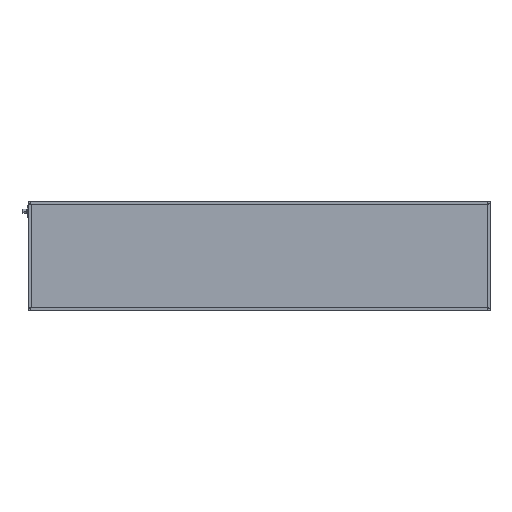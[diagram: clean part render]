
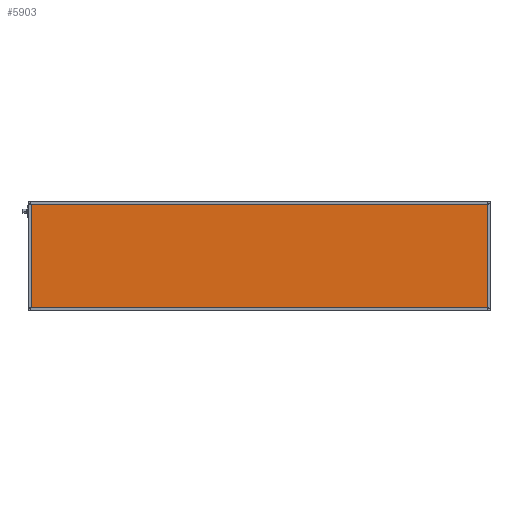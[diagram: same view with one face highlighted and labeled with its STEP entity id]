
A CAD part, top view. The second image highlights one B-rep face of the part: STEP entity #5903.
In plain terms, the highlighted planar face has unit normal (0, 0, 1).
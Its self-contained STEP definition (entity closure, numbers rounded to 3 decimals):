
#283 = VERTEX_POINT ( 'NONE', #7004 ) ;
#918 = DIRECTION ( 'NONE',  ( 0., 1., 0. ) ) ;
#1315 = CARTESIAN_POINT ( 'NONE',  ( 0., 4., 41.85 ) ) ;
#2467 = CARTESIAN_POINT ( 'NONE',  ( 1296., 296., 41.85 ) ) ;
#2689 = VECTOR ( 'NONE', #8705, 1000. ) ;
#3311 = VERTEX_POINT ( 'NONE', #8673 ) ;
#3395 = LINE ( 'NONE', #16724, #2689 ) ;
#3398 = EDGE_CURVE ( 'NONE', #3311, #5156, #10151, .T. ) ;
#3544 = VECTOR ( 'NONE', #16028, 1000. ) ;
#3744 = DIRECTION ( 'NONE',  ( 0., -1., 0. ) ) ;
#5156 = VERTEX_POINT ( 'NONE', #2467 ) ;
#5212 = FACE_OUTER_BOUND ( 'NONE', #5523, .T. ) ;
#5297 = PLANE ( 'NONE',  #13568 ) ;
#5523 = EDGE_LOOP ( 'NONE', ( #16991, #9375, #10253, #6012 ) ) ;
#5903 = ADVANCED_FACE ( 'NONE', ( #5212 ), #5297, .F. ) ;
#6012 = ORIENTED_EDGE ( 'NONE', *, *, #16904, .T. ) ;
#6371 = LINE ( 'NONE', #7851, #10753 ) ;
#7004 = CARTESIAN_POINT ( 'NONE',  ( 4., 4., 41.85 ) ) ;
#7851 = CARTESIAN_POINT ( 'NONE',  ( 4., 0., 41.85 ) ) ;
#8673 = CARTESIAN_POINT ( 'NONE',  ( 1296., 4., 41.85 ) ) ;
#8705 = DIRECTION ( 'NONE',  ( -1., 0., 0. ) ) ;
#9156 = LINE ( 'NONE', #1315, #3544 ) ;
#9375 = ORIENTED_EDGE ( 'NONE', *, *, #15724, .T. ) ;
#10151 = LINE ( 'NONE', #11555, #17156 ) ;
#10253 = ORIENTED_EDGE ( 'NONE', *, *, #15792, .T. ) ;
#10525 = CARTESIAN_POINT ( 'NONE',  ( 0., 0., 41.85 ) ) ;
#10753 = VECTOR ( 'NONE', #3744, 1000. ) ;
#11555 = CARTESIAN_POINT ( 'NONE',  ( 1296., 0., 41.85 ) ) ;
#11614 = VERTEX_POINT ( 'NONE', #17054 ) ;
#13568 = AXIS2_PLACEMENT_3D ( 'NONE', #10525, #15924, #14545 ) ;
#14545 = DIRECTION ( 'NONE',  ( -1., 0., 0. ) ) ;
#15724 = EDGE_CURVE ( 'NONE', #5156, #11614, #3395, .T. ) ;
#15792 = EDGE_CURVE ( 'NONE', #11614, #283, #6371, .T. ) ;
#15924 = DIRECTION ( 'NONE',  ( 0., 0., -1. ) ) ;
#16028 = DIRECTION ( 'NONE',  ( 1., 0., 0. ) ) ;
#16724 = CARTESIAN_POINT ( 'NONE',  ( 0., 296., 41.85 ) ) ;
#16904 = EDGE_CURVE ( 'NONE', #283, #3311, #9156, .T. ) ;
#16991 = ORIENTED_EDGE ( 'NONE', *, *, #3398, .T. ) ;
#17054 = CARTESIAN_POINT ( 'NONE',  ( 4., 296., 41.85 ) ) ;
#17156 = VECTOR ( 'NONE', #918, 1000. ) ;
